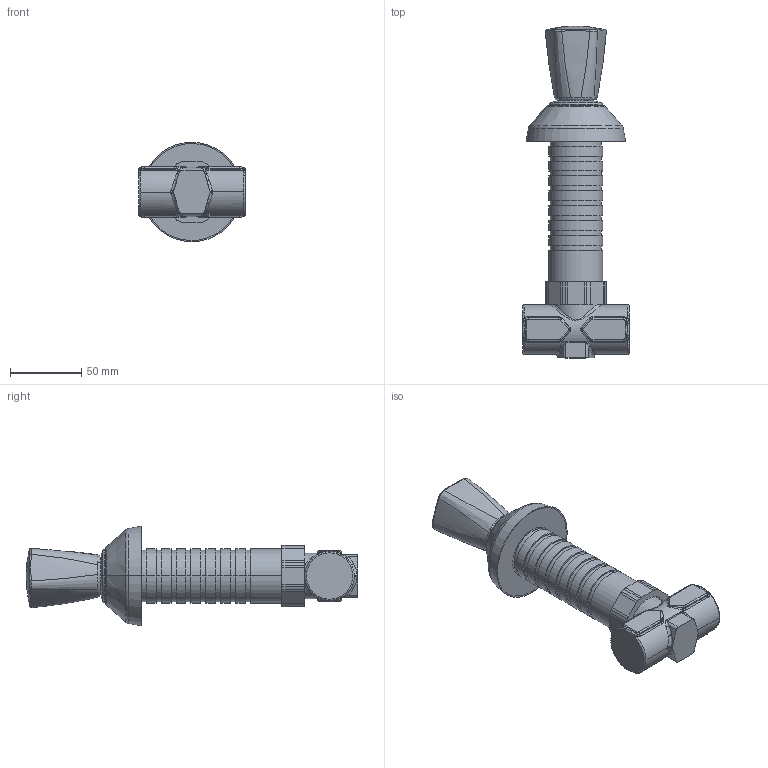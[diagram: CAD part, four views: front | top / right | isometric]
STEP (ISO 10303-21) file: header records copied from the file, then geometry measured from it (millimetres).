
FILE_DESCRIPTION((''),'2;1');
FILE_NAME('506616_SW0001','2020-06-05T10:47:34',('LF994'),(''),'CREO PARAMETRIC BY PTC INC, 2018500','CREO PARAMETRIC BY PTC INC, 2018500','');
FILE_SCHEMA(('CONFIG_CONTROL_DESIGN'));
Length unit declared in the file: millimetre
Products named in the file (1): 506616_SW0001
Bounding box: 75 x 233.5 x 69.99 mm (x, y, z)
Volume: 265101.2 mm3; surface area: 67471.3 mm2
Topology: 2 solids, 2 shells, 586 faces, 1460 edges, 905 vertices
Faces by surface type: cylinder 205, plane 166, bspline 129, torus 47, cone 34, sphere 4, revolution 1
Entity records: 24374 total; most frequent: CARTESIAN_POINT 11242, ORIENTED_EDGE 2920, DIRECTION 2551, EDGE_CURVE 1460, AXIS2_PLACEMENT_3D 1063, VERTEX_POINT 905, EDGE_LOOP 617, CIRCLE 607
